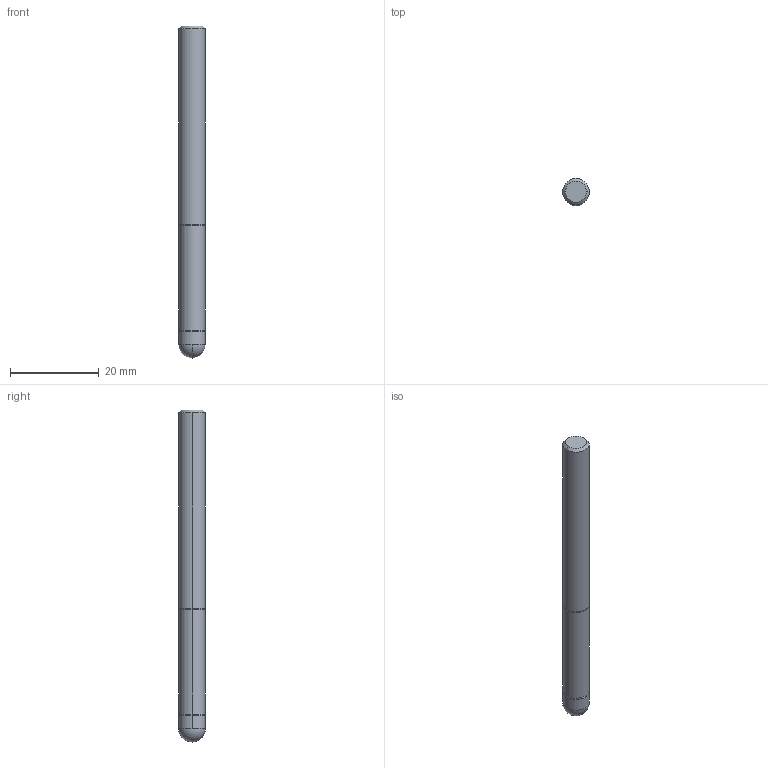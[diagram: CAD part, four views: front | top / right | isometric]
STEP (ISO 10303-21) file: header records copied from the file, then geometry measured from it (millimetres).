
FILE_DESCRIPTION (( 'STEP AP214' ), '1' );
FILE_NAME ('561.600.75_3D-model.step', '2022-02-18T17:01:44', ( '' ), ( '' ), 'SwSTEP 2.0', 'SolidWorks 2020', '' );
FILE_SCHEMA (( 'AUTOMOTIVE_DESIGN' ));
Length unit declared in the file: millimetre
Products named in the file (3): CUT-3D^Baugr27; NOCUT-3D^Baugr27; 561.600.75_3D-model
Assembly tree (2 placements, depth 2):
  561.600.75_3D-model
    CUT-3D^Baugr27
    NOCUT-3D^Baugr27
Bounding box: 6 x 6 x 75 mm (x, y, z)
Volume: 2066.7 mm3; surface area: 1484.1 mm2
Topology: 2 solids, 2 shells, 19 faces, 38 edges, 21 vertices
Faces by surface type: cylinder 6, cone 6, plane 3, sphere 2, torus 2
Entity records: 604 total; most frequent: DIRECTION 114, CARTESIAN_POINT 84, ORIENTED_EDGE 72, AXIS2_PLACEMENT_3D 51, EDGE_CURVE 36, CIRCLE 24, VERTEX_POINT 21, FACE_OUTER_BOUND 19
